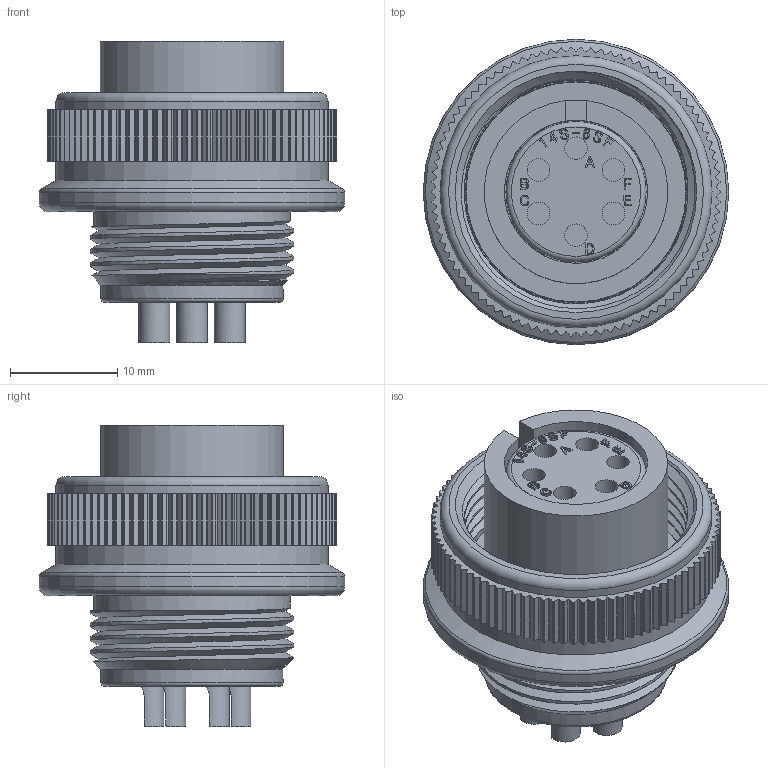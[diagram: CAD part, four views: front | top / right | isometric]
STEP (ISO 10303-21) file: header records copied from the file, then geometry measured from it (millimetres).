
FILE_DESCRIPTION (( 'STEP AP203' ), '1' );
FILE_NAME ('DMS3106A14S-6S(D190).STEP', '2021-02-05T09:45:07', ( '' ), ( '' ), 'SwSTEP 2.0', 'SolidWorks 2018', '' );
FILE_SCHEMA (( 'CONFIG_CONTROL_DESIGN' ));
Length unit declared in the file: millimetre
Products named in the file (1): DMS3106A14S-6S(D190)
Bounding box: 28.52 x 28.52 x 28.11 mm (x, y, z)
Volume: 7749.7 mm3; surface area: 7170.2 mm2
Topology: 1 solids, 1 shells, 1223 faces, 3438 edges, 2282 vertices
Faces by surface type: plane 496, cylinder 449, bspline 256, torus 19, cone 3
Full cylindrical faces by diameter (mm): 2.11 x6, 11.78 x1, 13.08 x1, 13.37 x1, 14.85 x1, 17 x1, 18.39 x1, 19.18 x1, 20.54 x1, 20.68 x1, 21.4 x1, 25.4 x2, 28.52 x1
Entity records: 48327 total; most frequent: CARTESIAN_POINT 17959, ORIENTED_EDGE 6786, DIRECTION 5623, EDGE_CURVE 3393, VERTEX_POINT 2264, LINE 1931, VECTOR 1931, AXIS2_PLACEMENT_3D 1846
